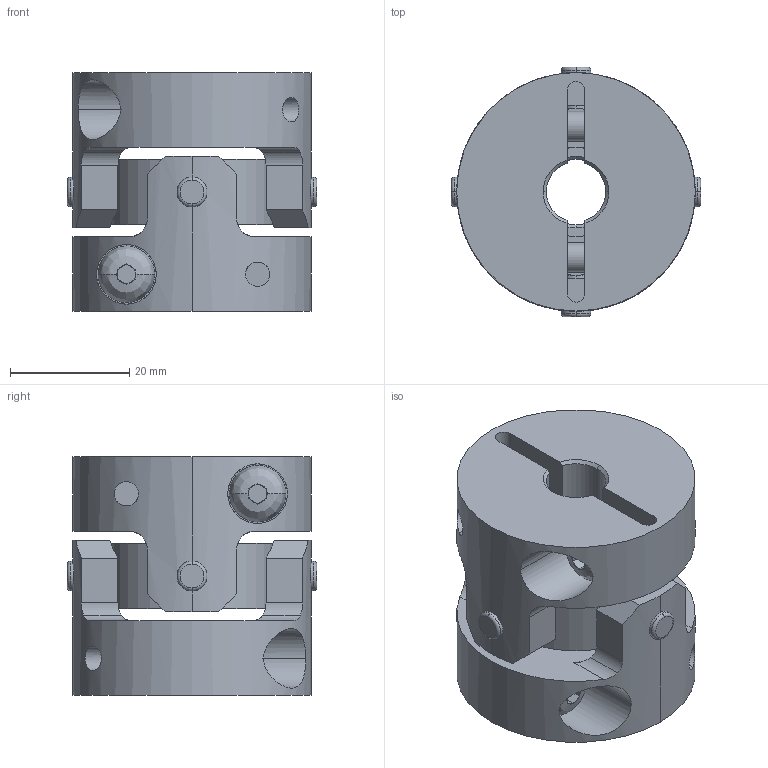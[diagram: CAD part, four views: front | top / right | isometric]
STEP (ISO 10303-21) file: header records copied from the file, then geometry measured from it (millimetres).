
FILE_DESCRIPTION((''),'2;1');
FILE_NAME('UA-40C-10×11.stp','2013-05-22T09:36:06',(''),(''),'AutoCAD STEP 2000i','AutoCAD 2000i',', , ');
FILE_SCHEMA(('CONFIG_CONTROL_DESIGN'));
Length unit declared in the file: millimetre
Products named in the file (6): UA-40C-8×8; 忣兜1; UA-4002-D08-1; BTN-M5; UA-4002-D08; UA40-SEN
Assembly tree (6 placements, depth 3):
  UA-40C-8×8
    忣兜1
    UA-4002-D08-1
      BTN-M5
    UA-4002-D08
      BTN-M5
    UA40-SEN
Bounding box: 41.81 x 41.81 x 40 mm (x, y, z)
Volume: 34492.7 mm3; surface area: 15637.8 mm2
Topology: 1 solids, 1 shells, 250 faces, 646 edges, 408 vertices
Faces by surface type: plane 122, cylinder 96, cone 16, bspline 8, torus 8
Entity records: 9627 total; most frequent: CARTESIAN_POINT 3371, ORIENTED_EDGE 1292, DIRECTION 1288, EDGE_CURVE 646, AXIS2_PLACEMENT_3D 497, VERTEX_POINT 408, VECTOR 294, LINE 294
